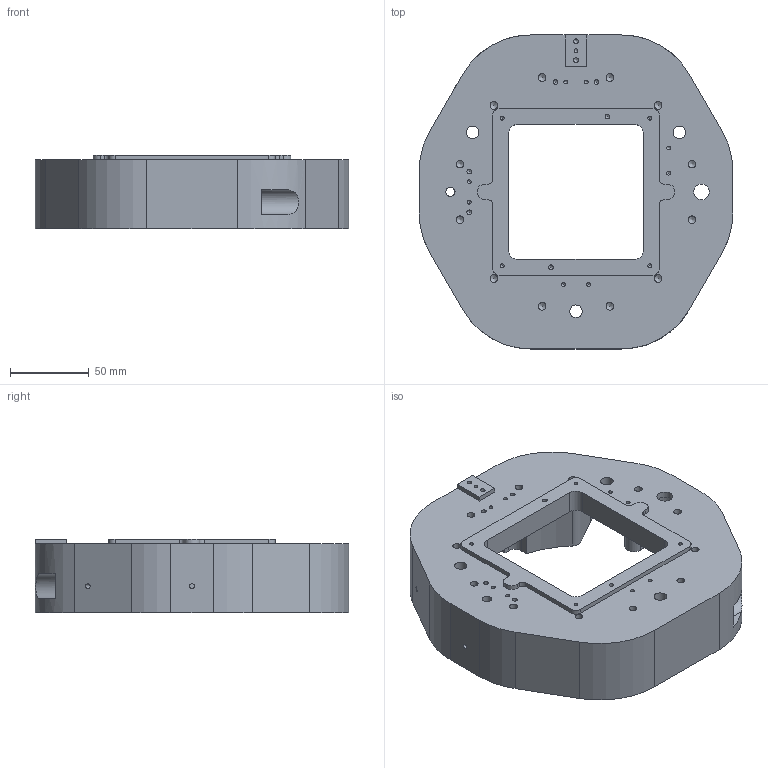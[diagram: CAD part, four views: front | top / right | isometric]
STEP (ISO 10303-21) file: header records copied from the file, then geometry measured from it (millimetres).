
FILE_DESCRIPTION(/* description */ ('Basebody'),/* implementation_level */ '2;1');
FILE_NAME(/* name */ 'Z:\Werkstatt Server\Projekte\Atlas\Entwicklung u. Konstruktion\Konstruktion\CAD Daten\ITkPixToolV2.0\Baremodule Jig\ITPTv2.01.00.01.stp',/* time_stamp */ '2021-08-06T14:37:23+02:00',/* author */ ('Tim Kanngießer'),/* organization */ (''),/* preprocessor_version */ 'ST-DEVELOPER v18.1',/* originating_system */ 'Autodesk Inventor 2022',/* authorisation */ '');
FILE_SCHEMA (('AUTOMOTIVE_DESIGN { 1 0 10303 214 3 1 1 }'));
Length unit declared in the file: millimetre
Products named in the file (1): ITPTv2.01.00.01
Bounding box: 200 x 200 x 47 mm (x, y, z)
Volume: 806550.4 mm3; surface area: 119939 mm2
Topology: 1 solids, 1 shells, 222 faces, 609 edges, 391 vertices
Faces by surface type: cylinder 110, plane 62, cone 50
Full cylindrical faces by diameter (mm): 2.459 x13, 3 x8, 3.242 x6, 4.917 x27, 5.867 x1, 8 x3, 10 x1, 12 x1
Entity records: 7066 total; most frequent: CARTESIAN_POINT 1341, DIRECTION 1228, ORIENTED_EDGE 1124, EDGE_CURVE 562, AXIS2_PLACEMENT_3D 453, VERTEX_POINT 391, LINE 322, VECTOR 322
